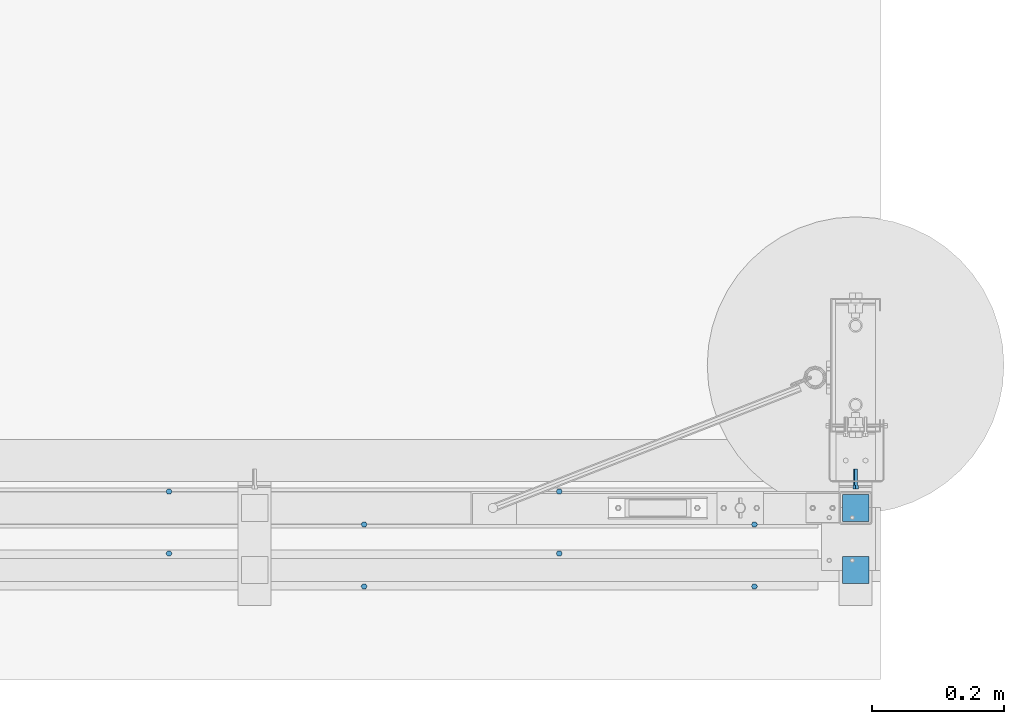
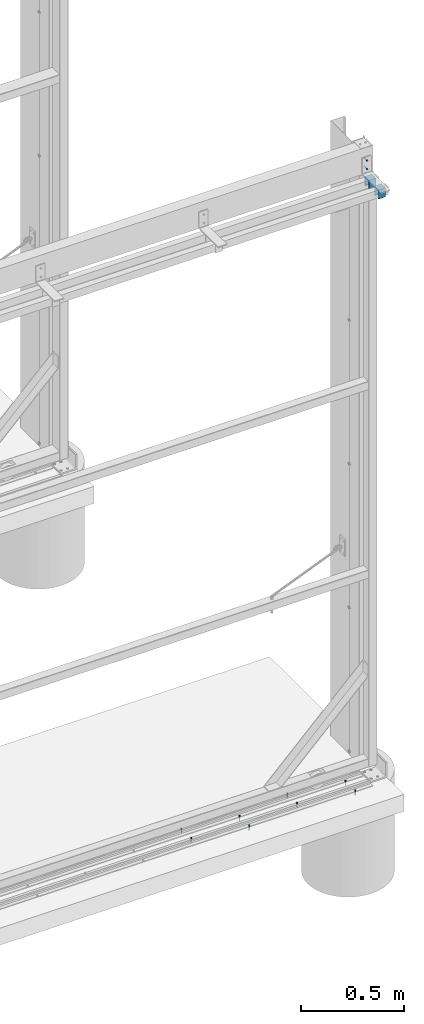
# One storey, part 63 of 91: 9 mechanical fasteners, 2 discrete accessories, 3 elements without a shape of their own.
"""IFC2X3 building model written with IfcOpenShell, lengths in millimetres."""

import ifcopenshell
import ifcopenshell.guid

model = None  # the IFC model being written
_history = None  # IfcOwnerHistory: only IFC2X3 demands one
_inside = {}  # id of a spatial element -> (the spatial element, [elements in it])
_under = {}  # id of a project, library or spatial element -> (it, [spatial elements below it])
_declared = {}  # id of a project -> (the project, [libraries it declares])
_typed = {}  # id of a type object -> (the type object, [elements of that type])
_made_of = {}  # id of a material, layer set ... -> (it, [elements and type objects made of it])


def new_model(schema):
    """Start an empty IFC model of exactly this schema.

    Asked for "IFC4X3", IfcOpenShell would pick the latest addendum, in which some entities
    have other attributes; the version numbers below select the first issue.
    IFC2X3 requires an IfcOwnerHistory on every rooted entity: one is made here for all.
    """
    global model, _history
    if schema == "IFC4X3":
        model = ifcopenshell.file(schema_version=(4, 3, 0, 0))
    else:
        model = ifcopenshell.file(schema=schema)
    _inside.clear()
    _under.clear()
    _declared.clear()
    _typed.clear()
    _made_of.clear()
    _history = None
    if model.schema == "IFC2X3":
        org = make("IfcOrganization", Name="unknown")
        user = make(
            "IfcPersonAndOrganization",
            ThePerson=make("IfcPerson", FamilyName="unknown"),
            TheOrganization=org,
        )
        app = make(
            "IfcApplication",
            ApplicationDeveloper=org,
            Version="unknown",
            ApplicationFullName="unknown",
            ApplicationIdentifier="unknown",
        )
        _history = make(
            "IfcOwnerHistory",
            OwningUser=user,
            OwningApplication=app,
            ChangeAction="ADDED",
            CreationDate=0,
        )
    return model


def make(cls, **values):
    """One entity of the class cls with the attributes given. An attribute that is None is left unset."""
    return model.create_entity(
        cls, **{name: value for name, value in values.items() if value is not None}
    )


def rooted(cls, **values):
    """An entity with a GlobalId (a new one), such as an element, a storey or a relation."""
    return make(cls, GlobalId=ifcopenshell.guid.new(), OwnerHistory=_history, **values)


def si_unit(unit_type, name, prefix=None):
    """IfcSIUnit, for example si_unit("LENGTHUNIT", "METRE", prefix="MILLI")."""
    return make("IfcSIUnit", UnitType=unit_type, Prefix=prefix, Name=name)


def assignment(units):
    """IfcUnitAssignment: the units of a project."""
    return None if units is None else make("IfcUnitAssignment", Units=units)


def point(xyz):
    """IfcCartesianPoint."""
    return None if xyz is None else make("IfcCartesianPoint", Coordinates=xyz)


def direction(xyz):
    """IfcDirection."""
    return None if xyz is None else make("IfcDirection", DirectionRatios=xyz)


def frame(location, z_axis=None, x_axis=None):
    """IfcAxis2Placement3D, a coordinate frame: its origin and axes. An axis left out is left unset."""
    return make(
        "IfcAxis2Placement3D",
        Location=point(location),
        Axis=direction(z_axis),
        RefDirection=direction(x_axis),
    )


def frame_2d(location, x_axis=None):
    """IfcAxis2Placement2D, a coordinate frame in the plane: its origin and x axis."""
    return make(
        "IfcAxis2Placement2D", Location=point(location), RefDirection=direction(x_axis)
    )


def origin_with_axes():
    """The frame at (0, 0, 0) with the z axis (0, 0, 1) and the x axis (1, 0, 0) written out."""
    return frame((0.0, 0.0, 0.0), z_axis=(0.0, 0.0, 1.0), x_axis=(1.0, 0.0, 0.0))


def origin_2d_with_axis():
    """The frame at (0, 0) in the plane with the x axis (1, 0) written out."""
    return frame_2d((0.0, 0.0), x_axis=(1.0, 0.0))


def place(relative_to, where):
    """IfcLocalPlacement: puts the frame where relative to a parent placement (None: the world)."""
    return make(
        "IfcLocalPlacement", PlacementRelTo=relative_to, RelativePlacement=where
    )


def context(
    kind, dimensions, precision=None, world=None, true_north=None, identifier=None
):
    """IfcGeometricRepresentationContext, for example the 3D "Model" context."""
    return make(
        "IfcGeometricRepresentationContext",
        ContextIdentifier=identifier,
        ContextType=kind,
        CoordinateSpaceDimension=dimensions,
        Precision=precision,
        WorldCoordinateSystem=world,
        TrueNorth=true_north,
    )


def subcontext(parent, identifier, kind, view, scale=None):
    """IfcGeometricRepresentationSubContext, for example "Body" below "Model"."""
    return make(
        "IfcGeometricRepresentationSubContext",
        ContextIdentifier=identifier,
        ContextType=kind,
        ParentContext=parent,
        TargetScale=scale,
        TargetView=view,
    )


def project(units=None, contexts=None):
    """IfcProject with its units and contexts."""
    return rooted(
        "IfcProject",
        Name="project",
        RepresentationContexts=contexts,
        UnitsInContext=assignment(units),
    )


def spatial(cls, under=None, at=None, **own):
    """A site, building, storey or space (cls), placed at a placement, below another one or the project."""
    s = rooted(cls, ObjectPlacement=at, **own)
    if under is not None:
        _under.setdefault(under.id(), (under, []))[1].append(s)
    return s


def polyline(points):
    """IfcPolyline through the points."""
    return make("IfcPolyline", Points=[point(p) for p in points])


def profile(cls, at=None, kind="AREA", **sizes):
    """A parametric profile (cls). Its sizes go by their IFC names, for example OverallWidth=200.0."""
    return make(cls, ProfileType=kind, Position=at, **sizes)


def circle(**sizes):
    """IfcCircleProfileDef."""
    return profile("IfcCircleProfileDef", **sizes)


def c_section(**sizes):
    """IfcCShapeProfileDef."""
    return profile("IfcCShapeProfileDef", **sizes)


def outline(outer, holes=None, kind="AREA"):
    """IfcArbitraryClosedProfileDef: a profile drawn as a closed curve; with holes, ...WithVoids."""
    if holes is None:
        return make("IfcArbitraryClosedProfileDef", ProfileType=kind, OuterCurve=outer)
    return make(
        "IfcArbitraryProfileDefWithVoids",
        ProfileType=kind,
        OuterCurve=outer,
        InnerCurves=holes,
    )


def extrude(swept, where, along, depth):
    """IfcExtrudedAreaSolid: the profile swept, set in the frame where, extruded along a direction by depth."""
    return make(
        "IfcExtrudedAreaSolid",
        SweptArea=swept,
        Position=where,
        ExtrudedDirection=direction(along),
        Depth=depth,
    )


def shape(context_of_items, identifier, shape_type, items):
    """IfcShapeRepresentation: the items that make up one representation, for example the "Body"."""
    return make(
        "IfcShapeRepresentation",
        ContextOfItems=context_of_items,
        RepresentationIdentifier=identifier,
        RepresentationType=shape_type,
        Items=items,
    )


def source(mapping_origin, context_of_items, identifier, shape_type, items):
    """IfcRepresentationMap: a shape defined once, which mapped items show again and again."""
    return make(
        "IfcRepresentationMap",
        MappingOrigin=mapping_origin,
        MappedRepresentation=shape(context_of_items, identifier, shape_type, items),
    )


def transform(
    local_origin,
    x_axis=None,
    y_axis=None,
    z_axis=None,
    scale=None,
    scale2=None,
    scale3=None,
    uniform=True,
):
    """IfcCartesianTransformationOperator3D, or its non-uniform kind. x_axis, y_axis, z_axis: its Axis1, 2, 3."""
    if uniform:
        return make(
            "IfcCartesianTransformationOperator3D",
            Axis1=direction(x_axis),
            Axis2=direction(y_axis),
            LocalOrigin=point(local_origin),
            Scale=scale,
            Axis3=direction(z_axis),
        )
    return make(
        "IfcCartesianTransformationOperator3DnonUniform",
        Axis1=direction(x_axis),
        Axis2=direction(y_axis),
        LocalOrigin=point(local_origin),
        Scale=scale,
        Axis3=direction(z_axis),
        Scale2=scale2,
        Scale3=scale3,
    )


def mapped(mapping_source, mapping_target):
    """IfcMappedItem: shows the shape of a source again, moved by a transform."""
    return make(
        "IfcMappedItem", MappingSource=mapping_source, MappingTarget=mapping_target
    )


def material(Name=None, Category=None):
    """IfcMaterial."""
    return make("IfcMaterial", Name=Name, Category=Category)


def made_of(thing, what):
    """Note that an element or type object is made of a material, layer set ...; save() writes the relation."""
    if what is not None:
        _made_of.setdefault(what.id(), (what, []))[1].append(thing)
    return thing


def type_object(cls, material=None, **own):
    """A type object (cls), such as IfcWallType, which elements share."""
    return made_of(rooted(cls, **own), material)


def element(
    cls,
    number,
    at=None,
    inside=None,
    cuts=None,
    type_object=None,
    material=None,
    context=None,
    identifier="Body",
    shape_type=None,
    held_by="IfcProductDefinitionShape",
    body=None,
    shapes=None,
    **own,
):
    """One element of the class cls, such as IfcWall. Its Tag is "e" and its number.

    at: its placement. inside: the storey or other place that contains it. cuts: it is an
    opening in that element (IfcRelVoidsElement). A single representation is given by context,
    identifier, shape_type and body (its items); several are given by shapes. held_by: the class
    of the entity that holds the representations. save() writes the other relations.
    """
    e = rooted(cls, Tag="e%d" % number, ObjectPlacement=at, **own)
    if body is not None:
        shapes = [shape(context, identifier, shape_type, body)]
    if shapes is not None:
        e.Representation = make(held_by, Representations=shapes)
    if inside is not None:
        _inside.setdefault(inside.id(), (inside, []))[1].append(e)
    if cuts is not None:
        rooted(
            "IfcRelVoidsElement", RelatingBuildingElement=cuts, RelatedOpeningElement=e
        )
    if type_object is not None:
        _typed.setdefault(type_object.id(), (type_object, []))[1].append(e)
    return made_of(e, material)


def aggregate(whole, parts):
    """IfcRelAggregates: a whole, such as a stair, and the parts it consists of."""
    return rooted("IfcRelAggregates", RelatingObject=whole, RelatedObjects=parts)


def save(model, path):
    """Write the relations noted so far, then the file.

    IfcRelAggregates (storeys below a building ...), IfcRelContainedInSpatialStructure (elements
    in a storey), IfcRelDefinesByType, IfcRelAssociatesMaterial and IfcRelDeclares: one each for
    every whole, place, type object, material and project.
    """
    for whole, parts in _under.values():
        aggregate(whole, parts)
    for where, things in _inside.values():
        rooted(
            "IfcRelContainedInSpatialStructure",
            RelatedElements=things,
            RelatingStructure=where,
        )
    for kind, things in _typed.values():
        rooted("IfcRelDefinesByType", RelatedObjects=things, RelatingType=kind)
    for what, things in _made_of.values():
        rooted("IfcRelAssociatesMaterial", RelatedObjects=things, RelatingMaterial=what)
    for by, libraries in _declared.values():
        rooted("IfcRelDeclares", RelatingContext=by, RelatedDefinitions=libraries)
    model.write(path)


model = new_model("IFC2X3")

# Units and contexts
model_context = context("Model", 3, precision=1e-05, world=origin_with_axes())
body_context = subcontext(model_context, "Body", "Model", "MODEL_VIEW")
ifc_project = project(units=[si_unit("LENGTHUNIT", "METRE", prefix="MILLI"), si_unit("AREAUNIT", "SQUARE_METRE"), si_unit("VOLUMEUNIT", "CUBIC_METRE"), si_unit("MASSUNIT", "GRAM", prefix="KILO"), si_unit("TIMEUNIT", "SECOND"), si_unit("PLANEANGLEUNIT", "RADIAN"), si_unit("SOLIDANGLEUNIT", "STERADIAN"), si_unit("THERMODYNAMICTEMPERATUREUNIT", "DEGREE_CELSIUS"), si_unit("LUMINOUSINTENSITYUNIT", "LUMEN")], contexts=[model_context])

# Site, building, storey
site_placement = place(None, origin_with_axes())
site = spatial("IfcSite", under=ifc_project, at=site_placement, Name="Undefined", CompositionType="ELEMENT")
building_placement = place(site_placement, origin_with_axes())
building = spatial("IfcBuilding", under=site, at=building_placement, Name="Undefined", CompositionType="ELEMENT")
storey_placement = place(building_placement, origin_with_axes())
storey = spatial("IfcBuildingStorey", under=building, at=storey_placement, Name="Undefined", CompositionType="ELEMENT", Elevation=0.0)

# Assembly, mechanical fastener
assembly_1_placement = place(storey_placement, origin_with_axes())
assembly_1 = element("IfcElementAssembly", 1, at=assembly_1_placement, inside=storey, Name="DOOR BRACKET", AssemblyPlace="NOTDEFINED", PredefinedType="RIGID_FRAME")
ifc_material_1 = material(Name="TEK_11TPIM")
discrete_accessory_type_1 = type_object("IfcDiscreteAccessoryType", Name="Bolt assembly")
shared_shape_1 = source(origin_with_axes(), body_context, "Body", "SweptSolid", [
    extrude(circle(Radius=3.0, at=origin_2d_with_axis()), frame((0.0, -6.0, 0.0), z_axis=(0.0, 1.0, 0.0), x_axis=(1.0, 0.0, 0.0)), (0.0, 0.0, 1.0), 6.1),
    extrude(outline(polyline([(4.61880215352, 0.0), (2.30940107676, 4.00000000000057), (-2.30940107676, 4.00000000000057), (-4.61880215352, 0.0), (-2.30940107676, -4.00000000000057), (2.30940107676, -4.00000000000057), (4.61880215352, 0.0)])), frame((0.0, -11.1000000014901, 0.0), z_axis=(0.0, 1.0, 0.0), x_axis=(1.0, 0.0, 0.0)), (0.0, 0.0, 1.0), 5.0),
    extrude(circle(Radius=3.0, at=origin_2d_with_axis()), frame((0.0, -6.10000000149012, 0.0), z_axis=(0.0, 1.0, 0.0), x_axis=(1.0, 0.0, 0.0)), (0.0, 0.0, 1.0), 25.0),
    extrude(circle(Radius=3.0, at=origin_2d_with_axis()), frame((0.0, -6.10000000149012, 0.0), z_axis=(0.0, 1.0, 0.0), x_axis=(1.0, 0.0, 0.0)), (0.0, 0.0, 1.0), 0.1),
    extrude(circle(Radius=3.0, at=origin_2d_with_axis()), frame((0.0, 0.0, 0.0), z_axis=(0.0, 1.0, 0.0), x_axis=(1.0, 0.0, 0.0)), (0.0, 0.0, 1.0), 0.1),
    extrude(outline(polyline([(3.46410161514, 0.0), (1.73205080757, 3.00000000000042), (-1.73205080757, 3.00000000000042), (-3.46410161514, 0.0), (-1.73205080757, -3.00000000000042), (1.73205080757, -3.00000000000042), (3.46410161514, 0.0)])), frame((0.0, 0.1, 0.0), z_axis=(0.0, 1.0, 0.0), x_axis=(1.0, 0.0, 0.0)), (0.0, 0.0, 1.0), 0.1),
])
mechanical_fastener_1_placement = place(assembly_1_placement, frame((-107683.34, 84752.15, 3524.0), z_axis=(1.0, 0.0, 0.0), x_axis=(0.0, 0.0, -1.0)))
mechanical_fastener_1 = element("IfcMechanicalFastener", 2, at=mechanical_fastener_1_placement, type_object=discrete_accessory_type_1, material=ifc_material_1, Name="Bolt assembly", NominalDiameter=6.0, NominalLength=25.0, context=body_context, shape_type="MappedRepresentation", body=[
    mapped(shared_shape_1, transform((0.0, 0.0, 0.0))),
    mapped(shared_shape_1, transform((50.0, 0.0, 0.0))),
])

# Assembly, mechanical fasteners
assembly_2_placement = place(storey_placement, origin_with_axes())
assembly_2 = element("IfcElementAssembly", 3, at=assembly_2_placement, inside=storey, Name="DOOR TRACK", AssemblyPlace="NOTDEFINED", PredefinedType="RIGID_FRAME")
ifc_material_2 = material(Name="TEK_10TPII")
shared_shape_2 = source(origin_with_axes(), body_context, "Body", "SweptSolid", [
    extrude(circle(Radius=4.07999992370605, at=origin_2d_with_axis()), frame((0.0, 0.0, 0.0), z_axis=(0.0, 1.0, 0.0), x_axis=(1.0, 0.0, 0.0)), (0.0, 0.0, 1.0), 3.1),
    extrude(outline(polyline([(4.61880215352, 0.0), (2.30940107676, 4.00000000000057), (-2.30940107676, 4.00000000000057), (-4.61880215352, 0.0), (-2.30940107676, -4.00000000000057), (2.30940107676, -4.00000000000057), (4.61880215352, 0.0)])), frame((0.0, -5.0, 0.0), z_axis=(0.0, 1.0, 0.0), x_axis=(1.0, 0.0, 0.0)), (0.0, 0.0, 1.0), 5.0),
    extrude(circle(Radius=3.07999992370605, at=origin_2d_with_axis()), frame((0.0, 0.0, 0.0), z_axis=(0.0, 1.0, 0.0), x_axis=(1.0, 0.0, 0.0)), (0.0, 0.0, 1.0), 25.0),
    extrude(circle(Radius=3.0, at=origin_2d_with_axis()), frame((0.0, 3.0, 0.0), z_axis=(0.0, 1.0, 0.0), x_axis=(1.0, 0.0, 0.0)), (0.0, 0.0, 1.0), 0.1),
    extrude(outline(polyline([(3.46410161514, 0.0), (1.73205080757, 3.00000000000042), (-1.73205080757, 3.00000000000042), (-3.46410161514, 0.0), (-1.73205080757, -3.00000000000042), (1.73205080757, -3.00000000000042), (3.46410161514, 0.0)])), frame((0.0, 3.10000000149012, 0.0), z_axis=(0.0, 1.0, 0.0), x_axis=(1.0, 0.0, 0.0)), (0.0, 0.0, 1.0), 0.1),
])
mechanical_fastener_2_placement = place(assembly_2_placement, frame((-107836.84, 84687.151953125, -54.0), z_axis=(0.0, 1.0, 0.0), x_axis=(1.0, 0.0, 0.0)))
mechanical_fastener_2 = element("IfcMechanicalFastener", 4, at=mechanical_fastener_2_placement, type_object=discrete_accessory_type_1, material=ifc_material_2, Name="Bolt assembly", NominalDiameter=6.15999984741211, NominalLength=25.0, context=body_context, shape_type="MappedRepresentation", body=[
    mapped(shared_shape_2, transform((0.0, 0.0, 0.0))),
])
mechanical_fastener_3_placement = place(assembly_2_placement, frame((-108132.74, 84737.151953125, -54.0), z_axis=(0.0, 1.0, 0.0), x_axis=(1.0, 0.0, 0.0)))
mechanical_fastener_3 = element("IfcMechanicalFastener", 5, at=mechanical_fastener_3_placement, type_object=discrete_accessory_type_1, material=ifc_material_2, Name="Bolt assembly", NominalDiameter=6.15999984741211, NominalLength=25.0, context=body_context, shape_type="MappedRepresentation", body=[
    mapped(shared_shape_2, transform((0.0, 0.0, 0.0))),
])
mechanical_fastener_4_placement = place(assembly_2_placement, frame((-108428.64, 84687.151953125, -54.0), z_axis=(0.0, 1.0, 0.0), x_axis=(1.0, 0.0, 0.0)))
mechanical_fastener_4 = element("IfcMechanicalFastener", 6, at=mechanical_fastener_4_placement, type_object=discrete_accessory_type_1, material=ifc_material_2, Name="Bolt assembly", NominalDiameter=6.15999984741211, NominalLength=25.0, context=body_context, shape_type="MappedRepresentation", body=[
    mapped(shared_shape_2, transform((0.0, 0.0, 0.0))),
])
mechanical_fastener_5_placement = place(assembly_2_placement, frame((-108724.54, 84737.151953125, -54.0), z_axis=(0.0, 1.0, 0.0), x_axis=(1.0, 0.0, 0.0)))
mechanical_fastener_5 = element("IfcMechanicalFastener", 7, at=mechanical_fastener_5_placement, type_object=discrete_accessory_type_1, material=ifc_material_2, Name="Bolt assembly", NominalDiameter=6.15999984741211, NominalLength=25.0, context=body_context, shape_type="MappedRepresentation", body=[
    mapped(shared_shape_2, transform((0.0, 0.0, 0.0))),
])
aggregate(assembly_2, [mechanical_fastener_2, mechanical_fastener_3, mechanical_fastener_4, mechanical_fastener_5])

assembly_3_placement = place(storey_placement, origin_with_axes())
assembly_3 = element("IfcElementAssembly", 8, at=assembly_3_placement, inside=storey, Name="DOOR TRACK", AssemblyPlace="NOTDEFINED", PredefinedType="RIGID_FRAME")
mechanical_fastener_6_placement = place(assembly_3_placement, frame((-107836.84, 84593.151953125, -54.0), z_axis=(0.0, 1.0, 0.0), x_axis=(1.0, 0.0, 0.0)))
mechanical_fastener_6 = element("IfcMechanicalFastener", 9, at=mechanical_fastener_6_placement, type_object=discrete_accessory_type_1, material=ifc_material_2, Name="Bolt assembly", NominalDiameter=6.15999984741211, NominalLength=25.0, context=body_context, shape_type="MappedRepresentation", body=[
    mapped(shared_shape_2, transform((0.0, 0.0, 0.0))),
])
mechanical_fastener_7_placement = place(assembly_3_placement, frame((-108132.74, 84643.151953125, -54.0), z_axis=(0.0, 1.0, 0.0), x_axis=(1.0, 0.0, 0.0)))
mechanical_fastener_7 = element("IfcMechanicalFastener", 10, at=mechanical_fastener_7_placement, type_object=discrete_accessory_type_1, material=ifc_material_2, Name="Bolt assembly", NominalDiameter=6.15999984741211, NominalLength=25.0, context=body_context, shape_type="MappedRepresentation", body=[
    mapped(shared_shape_2, transform((0.0, 0.0, 0.0))),
])
mechanical_fastener_8_placement = place(assembly_3_placement, frame((-108428.64, 84593.151953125, -54.0), z_axis=(0.0, 1.0, 0.0), x_axis=(1.0, 0.0, 0.0)))
mechanical_fastener_8 = element("IfcMechanicalFastener", 11, at=mechanical_fastener_8_placement, type_object=discrete_accessory_type_1, material=ifc_material_2, Name="Bolt assembly", NominalDiameter=6.15999984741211, NominalLength=25.0, context=body_context, shape_type="MappedRepresentation", body=[
    mapped(shared_shape_2, transform((0.0, 0.0, 0.0))),
])
mechanical_fastener_9_placement = place(assembly_3_placement, frame((-108724.54, 84643.151953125, -54.0), z_axis=(0.0, 1.0, 0.0), x_axis=(1.0, 0.0, 0.0)))
mechanical_fastener_9 = element("IfcMechanicalFastener", 12, at=mechanical_fastener_9_placement, type_object=discrete_accessory_type_1, material=ifc_material_2, Name="Bolt assembly", NominalDiameter=6.15999984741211, NominalLength=25.0, context=body_context, shape_type="MappedRepresentation", body=[
    mapped(shared_shape_2, transform((0.0, 0.0, 0.0))),
])
aggregate(assembly_3, [mechanical_fastener_6, mechanical_fastener_7, mechanical_fastener_8, mechanical_fastener_9])

# Discrete accessory
ifc_material_3 = material(Name="STEEL/250")
discrete_accessory_type_2 = type_object("IfcDiscreteAccessoryType", Name="SLIDING DOOR BRACKET")
discrete_accessory_1_placement = place(assembly_1_placement, frame((-107703.34, 84618.15, 3417.5), z_axis=(0.0, -1.0, 0.0), x_axis=(1.0, 0.0, 0.0)))
discrete_accessory_1 = element("IfcDiscreteAccessory", 13, at=discrete_accessory_1_placement, type_object=discrete_accessory_type_2, material=ifc_material_3, Name="SLIDING DOOR BRACKET", ObjectType="CC41-1.5-7-53", context=body_context, shape_type="SweptSolid", body=[
    extrude(c_section(Depth=41.0, Width=53.0, WallThickness=1.5, Girth=7.0, at=origin_2d_with_axis()), frame((40.0, 0.0, 0.0), z_axis=(-1.0, 0.0, 0.0), x_axis=(0.0, -1.0, 0.0)), (0.0, 0.0, 1.0), 40.0),
])

discrete_accessory_2_placement = place(assembly_1_placement, frame((-107703.34, 84712.15, 3417.5), z_axis=(0.0, -1.0, 0.0), x_axis=(1.0, 0.0, 0.0)))
discrete_accessory_2 = element("IfcDiscreteAccessory", 14, at=discrete_accessory_2_placement, type_object=discrete_accessory_type_2, material=ifc_material_3, Name="SLIDING DOOR BRACKET", ObjectType="CC41-1.5-7-53", context=body_context, shape_type="SweptSolid", body=[
    extrude(c_section(Depth=41.0, Width=53.0, WallThickness=1.5, Girth=7.0, at=origin_2d_with_axis()), frame((40.0, 0.0, 0.0), z_axis=(-1.0, 0.0, 0.0), x_axis=(0.0, -1.0, 0.0)), (0.0, 0.0, 1.0), 40.0),
])

aggregate(assembly_1, [mechanical_fastener_1, discrete_accessory_1, discrete_accessory_2])

save(model, "model.ifc")
